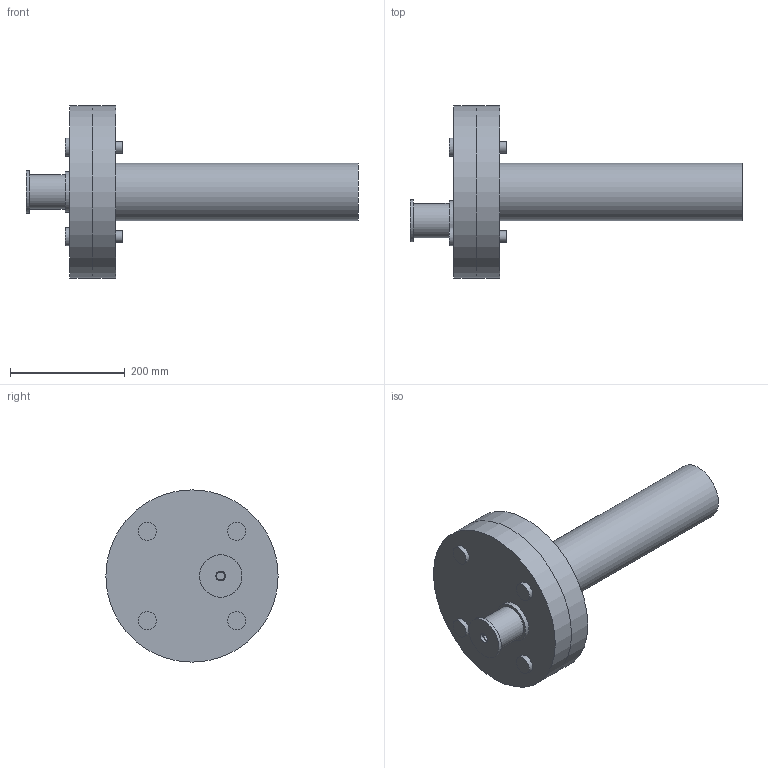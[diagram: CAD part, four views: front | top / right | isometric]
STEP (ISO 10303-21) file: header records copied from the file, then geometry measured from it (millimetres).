
FILE_DESCRIPTION(('Open CASCADE Model'),'2;1');
FILE_NAME('Open CASCADE Shape Model','2026-09-19T12:55:11',('Author'),( 'Open CASCADE'),'Open CASCADE STEP processor 7.9','Open CASCADE 7.9' ,'Unknown');
FILE_SCHEMA(('AUTOMOTIVE_DESIGN { 1 0 10303 214 1 1 1 1 }'));
Length unit declared in the file: millimetre
Products named in the file (10): Open CASCADE STEP translator 7.9 9; Open CASCADE STEP translator 7.9 9.1; Open CASCADE STEP translator 7.9 9.2; Open CASCADE STEP translator 7.9 9.3; Open CASCADE STEP translator 7.9 9.4; Open CASCADE STEP translator 7.9 9.5; Open CASCADE STEP translator 7.9 9.6; Open CASCADE STEP translator 7.9 9.7; Open CASCADE STEP translator 7.9 9.8; Open CASCADE STEP translator 7.9 9.9
Assembly tree (9 placements, depth 2):
  Open CASCADE STEP translator 7.9 9
    Open CASCADE STEP translator 7.9 9.1
    Open CASCADE STEP translator 7.9 9.2
    Open CASCADE STEP translator 7.9 9.3
    Open CASCADE STEP translator 7.9 9.4
    Open CASCADE STEP translator 7.9 9.5
    Open CASCADE STEP translator 7.9 9.6
    Open CASCADE STEP translator 7.9 9.7
    Open CASCADE STEP translator 7.9 9.8
    Open CASCADE STEP translator 7.9 9.9
Bounding box: 578 x 300 x 300 mm (x, y, z)
Volume: 9144535.3 mm3; surface area: 596132.9 mm2
Topology: 9 solids, 9 shells, 58 faces, 90 edges, 60 vertices
Faces by surface type: cylinder 30, plane 28
Full cylindrical faces by diameter (mm): 14 x2, 17 x2, 20 x4, 22 x8, 32 x4, 60 x3, 70 x1, 74 x2, 76 x1, 100 x1, 300 x2
Entity records: 2704 total; most frequent: DIRECTION 466, CARTESIAN_POINT 398, ORIENTED_EDGE 180, PCURVE 180, DEFINITIONAL_REPRESENTATION 180, LINE 150, VECTOR 150, AXIS2_PLACEMENT_3D 128
